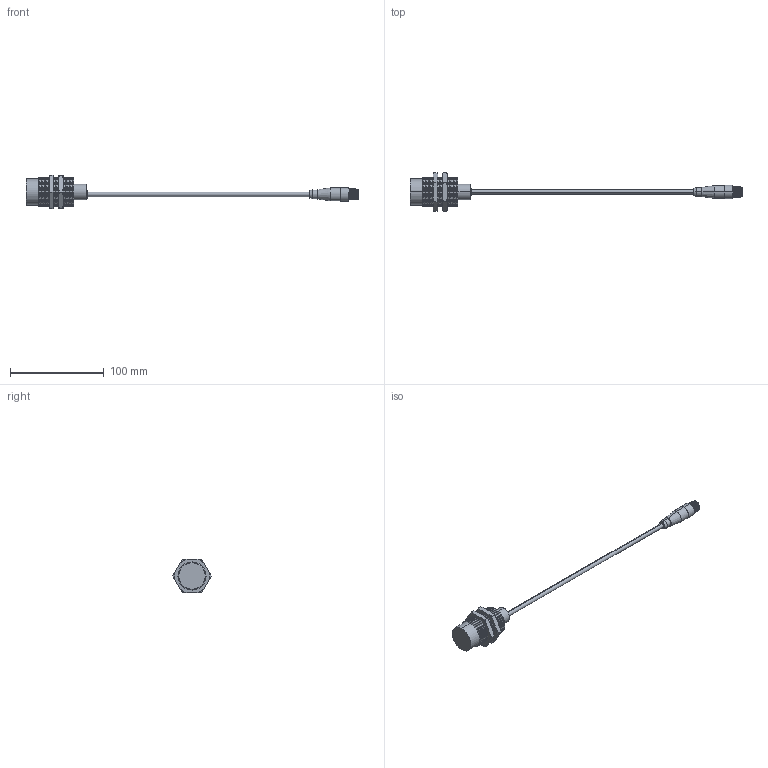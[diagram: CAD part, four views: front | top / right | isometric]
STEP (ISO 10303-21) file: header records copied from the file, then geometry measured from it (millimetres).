
FILE_DESCRIPTION (( 'STEP AP203' ), '1' );
FILE_NAME ('90-XXXX-036.STEP', '2015-10-28T13:24:16', ( 'Sam' ), ( 'Spade' ), 'SwSTEP 2.0', 'SolidWorks 2002296', '' );
FILE_SCHEMA (( 'CONFIG_CONTROL_DESIGN' ));
Length unit declared in the file: inch
Products named in the file (12): 90-XXXX-036; Imported362; Imported361; Imported360; Imported363; Imported365; Imported364; Imported357; Imported359; Imported358; Imported356; Imported355
Assembly tree (11 placements, depth 2):
  90-XXXX-036
    Imported359
    Imported365
    Imported355
    Imported363
    Imported357
    Imported358
    Imported364
    Imported356
    Imported361
    Imported362
    Imported360
Bounding box: 353.73 x 41.15 x 35.64 mm (x, y, z)
Volume: 52041.2 mm3; surface area: 22770.4 mm2
Topology: 11 solids, 11 shells, 360 faces, 765 edges, 437 vertices
Faces by surface type: cone 168, cylinder 93, plane 53, bspline 46
Entity records: 11761 total; most frequent: CARTESIAN_POINT 2812, DIRECTION 1723, ORIENTED_EDGE 1518, EDGE_CURVE 759, AXIS2_PLACEMENT_3D 704, VERTEX_POINT 437, EDGE_LOOP 382, CIRCLE 376
